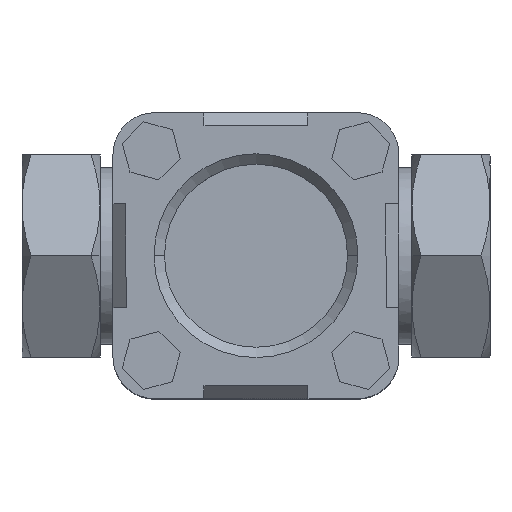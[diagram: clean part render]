
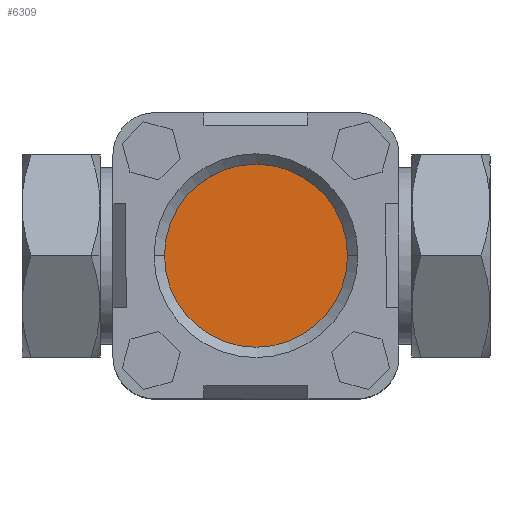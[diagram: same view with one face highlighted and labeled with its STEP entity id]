
A CAD part, top view. The second image highlights one B-rep face of the part: STEP entity #6309.
In plain terms, the highlighted planar face has unit normal (0, 0, 1).
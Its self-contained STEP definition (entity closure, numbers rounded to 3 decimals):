
#136 = EDGE_CURVE ( 'NONE', #5310, #1938, #3804, .T. ) ;
#849 = CARTESIAN_POINT ( 'NONE',  ( 0., 0., 27.8 ) ) ;
#1132 = CARTESIAN_POINT ( 'NONE',  ( 0., 0., 27.8 ) ) ;
#1245 = DIRECTION ( 'NONE',  ( 0., 0., 1. ) ) ;
#1428 = PLANE ( 'NONE',  #6306 ) ;
#1778 = DIRECTION ( 'NONE',  ( 1., 0., 0. ) ) ;
#1938 = VERTEX_POINT ( 'NONE', #2192 ) ;
#2085 = AXIS2_PLACEMENT_3D ( 'NONE', #1132, #5474, #1778 ) ;
#2192 = CARTESIAN_POINT ( 'NONE',  ( 17.6, 0., 27.8 ) ) ;
#2452 = CIRCLE ( 'NONE', #3476, 17.6 ) ;
#2490 = EDGE_LOOP ( 'NONE', ( #3394, #6998 ) ) ;
#2502 = DIRECTION ( 'NONE',  ( 1., 0., 0. ) ) ;
#3394 = ORIENTED_EDGE ( 'NONE', *, *, #6743, .T. ) ;
#3476 = AXIS2_PLACEMENT_3D ( 'NONE', #849, #1245, #4094 ) ;
#3804 = CIRCLE ( 'NONE', #2085, 17.6 ) ;
#4094 = DIRECTION ( 'NONE',  ( 1., 0., 0. ) ) ;
#4636 = DIRECTION ( 'NONE',  ( 0., 0., 1. ) ) ;
#4672 = CARTESIAN_POINT ( 'NONE',  ( 0., 17.6, 27.8 ) ) ;
#4811 = CARTESIAN_POINT ( 'NONE',  ( -17.6, 0., 27.8 ) ) ;
#5310 = VERTEX_POINT ( 'NONE', #4811 ) ;
#5474 = DIRECTION ( 'NONE',  ( 0., 0., 1. ) ) ;
#5769 = FACE_OUTER_BOUND ( 'NONE', #2490, .T. ) ;
#6306 = AXIS2_PLACEMENT_3D ( 'NONE', #4672, #4636, #2502 ) ;
#6309 = ADVANCED_FACE ( 'NONE', ( #5769 ), #1428, .T. ) ;
#6743 = EDGE_CURVE ( 'NONE', #1938, #5310, #2452, .T. ) ;
#6998 = ORIENTED_EDGE ( 'NONE', *, *, #136, .T. ) ;
